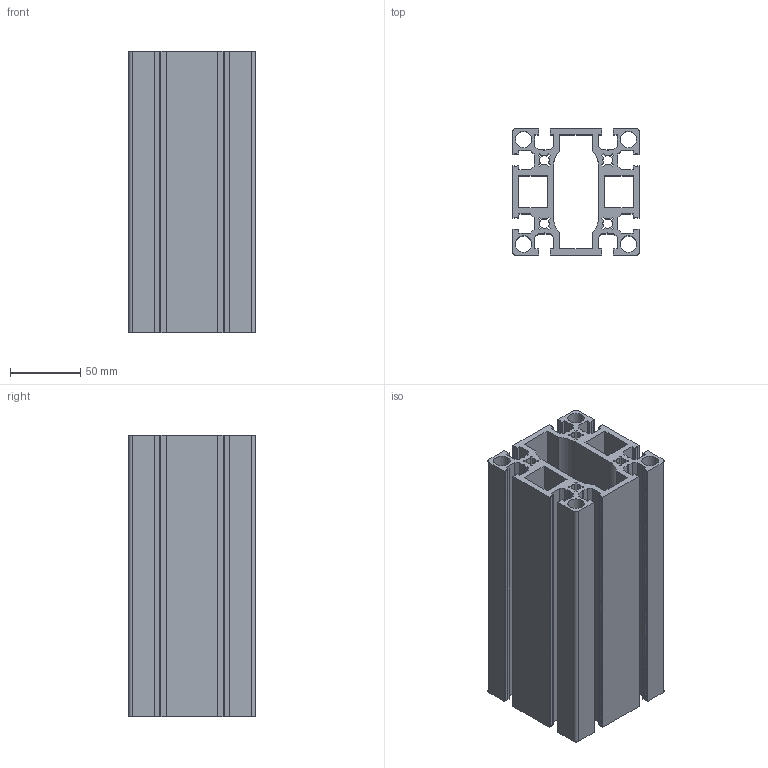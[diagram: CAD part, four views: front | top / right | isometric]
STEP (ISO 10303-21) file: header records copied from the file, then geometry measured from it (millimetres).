
FILE_DESCRIPTION (( 'STEP AP203' ), '1' );
FILE_NAME ('007517 REF 9090F.STEP', '2015-12-01T11:53:19', ( '' ), ( '' ), 'SwSTEP 2.0', 'SolidWorks 2015', '' );
FILE_SCHEMA (( 'CONFIG_CONTROL_DESIGN' ));
Length unit declared in the file: millimetre
Products named in the file (1): 007517 REF 9090F
Bounding box: 90 x 90 x 200 mm (x, y, z)
Volume: 558099 mm3; surface area: 276851.8 mm2
Topology: 1 solids, 1 shells, 252 faces, 750 edges, 500 vertices
Faces by surface type: plane 174, cylinder 62, bspline 16
Entity records: 8631 total; most frequent: CARTESIAN_POINT 1775, ORIENTED_EDGE 1500, DIRECTION 1316, EDGE_CURVE 750, VECTOR 594, LINE 594, VERTEX_POINT 500, AXIS2_PLACEMENT_3D 361
